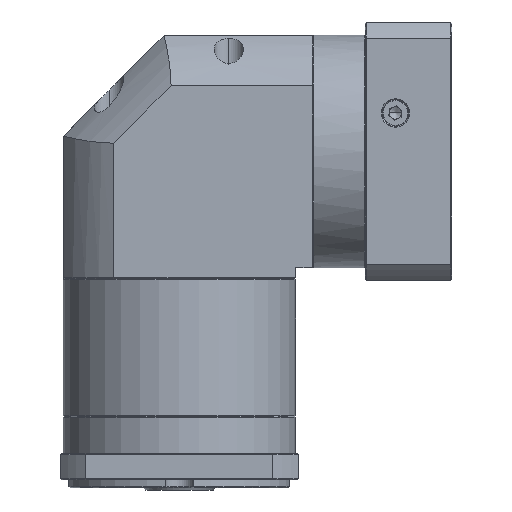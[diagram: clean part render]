
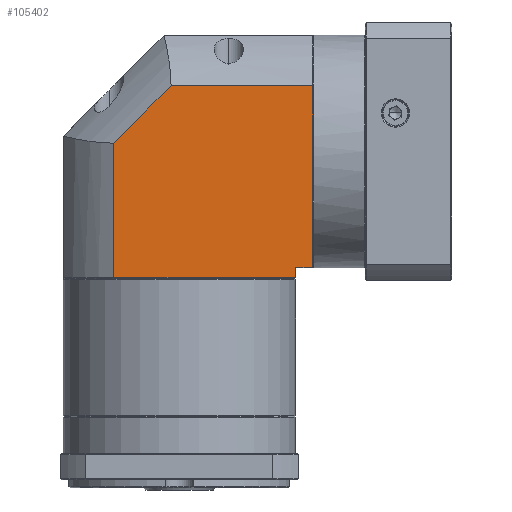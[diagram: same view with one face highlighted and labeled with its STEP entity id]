
A CAD part, front view. The second image highlights one B-rep face of the part: STEP entity #105402.
In plain terms, the highlighted planar face has unit normal (0, -1, 0).
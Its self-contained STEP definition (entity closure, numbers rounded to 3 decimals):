
#30 = CARTESIAN_POINT ( 'NONE',  ( 99.293, -14.816, -75.322 ) ) ;
#2663 = VECTOR ( 'NONE', #28652, 1000. ) ;
#4521 = LINE ( 'NONE', #36918, #86747 ) ;
#7571 = VERTEX_POINT ( 'NONE', #89852 ) ;
#11342 = LINE ( 'NONE', #95853, #76537 ) ;
#12638 = CARTESIAN_POINT ( 'NONE',  ( -15.707, -14.816, 26.078 ) ) ;
#13810 = ORIENTED_EDGE ( 'NONE', *, *, #127444, .F. ) ;
#15896 = CARTESIAN_POINT ( 'NONE',  ( 9.394, -14.816, -2.261 ) ) ;
#16040 = EDGE_CURVE ( 'NONE', #97332, #23113, #59581, .T. ) ;
#16606 = ORIENTED_EDGE ( 'NONE', *, *, #16040, .F. ) ;
#17927 = ORIENTED_EDGE ( 'NONE', *, *, #24015, .F. ) ;
#23113 = VERTEX_POINT ( 'NONE', #15896 ) ;
#24015 = EDGE_CURVE ( 'NONE', #105495, #110703, #103847, .T. ) ;
#27491 = PLANE ( 'NONE',  #56064 ) ;
#28652 = DIRECTION ( 'NONE',  ( 0., 0., -1. ) ) ;
#31436 = EDGE_CURVE ( 'NONE', #34565, #97332, #4521, .T. ) ;
#34565 = VERTEX_POINT ( 'NONE', #60533 ) ;
#36918 = CARTESIAN_POINT ( 'NONE',  ( -15.707, -14.816, -68.822 ) ) ;
#40651 = ORIENTED_EDGE ( 'NONE', *, *, #125037, .F. ) ;
#41860 = ORIENTED_EDGE ( 'NONE', *, *, #71464, .F. ) ;
#50827 = LINE ( 'NONE', #53344, #86488 ) ;
#53344 = CARTESIAN_POINT ( 'NONE',  ( 107.693, -14.816, -75.322 ) ) ;
#54668 = CARTESIAN_POINT ( 'NONE',  ( -15.707, -14.816, -63.822 ) ) ;
#56064 = AXIS2_PLACEMENT_3D ( 'NONE', #76921, #58709, #57467 ) ;
#57467 = DIRECTION ( 'NONE',  ( 1., 0., 0. ) ) ;
#57960 = FACE_OUTER_BOUND ( 'NONE', #122098, .T. ) ;
#58709 = DIRECTION ( 'NONE',  ( 0., 1., 0. ) ) ;
#59581 = LINE ( 'NONE', #109407, #76632 ) ;
#60533 = CARTESIAN_POINT ( 'NONE',  ( 99.293, -14.816, -68.822 ) ) ;
#62633 = VERTEX_POINT ( 'NONE', #121124 ) ;
#63693 = DIRECTION ( 'NONE',  ( 0., 0., -1. ) ) ;
#66517 = VECTOR ( 'NONE', #114318, 1000. ) ;
#67702 = CARTESIAN_POINT ( 'NONE',  ( 107.693, -14.816, 26.078 ) ) ;
#68225 = ORIENTED_EDGE ( 'NONE', *, *, #99980, .F. ) ;
#69615 = DIRECTION ( 'NONE',  ( 0., 0., 1. ) ) ;
#70760 = DIRECTION ( 'NONE',  ( 1., 0., 0. ) ) ;
#71464 = EDGE_CURVE ( 'NONE', #110703, #62633, #50827, .T. ) ;
#76537 = VECTOR ( 'NONE', #125219, 1000. ) ;
#76632 = VECTOR ( 'NONE', #69615, 1000. ) ;
#76921 = CARTESIAN_POINT ( 'NONE',  ( -15.707, -14.816, -75.322 ) ) ;
#84411 = CARTESIAN_POINT ( 'NONE',  ( 9.394, -14.816, -68.822 ) ) ;
#86488 = VECTOR ( 'NONE', #63693, 1000. ) ;
#86747 = VECTOR ( 'NONE', #106648, 1000. ) ;
#89742 = LINE ( 'NONE', #54668, #66517 ) ;
#89852 = CARTESIAN_POINT ( 'NONE',  ( 99.293, -14.816, -63.822 ) ) ;
#91585 = CARTESIAN_POINT ( 'NONE',  ( 37.732, -14.816, 26.078 ) ) ;
#95428 = ORIENTED_EDGE ( 'NONE', *, *, #31436, .F. ) ;
#95853 = CARTESIAN_POINT ( 'NONE',  ( 9.394, -14.816, -2.261 ) ) ;
#97332 = VERTEX_POINT ( 'NONE', #84411 ) ;
#99980 = EDGE_CURVE ( 'NONE', #62633, #7571, #89742, .T. ) ;
#103847 = LINE ( 'NONE', #12638, #119281 ) ;
#105402 = ADVANCED_FACE ( 'NONE', ( #57960 ), #27491, .F. ) ;
#105495 = VERTEX_POINT ( 'NONE', #91585 ) ;
#106648 = DIRECTION ( 'NONE',  ( -1., 0., 0. ) ) ;
#109407 = CARTESIAN_POINT ( 'NONE',  ( 9.394, -14.816, -75.322 ) ) ;
#110703 = VERTEX_POINT ( 'NONE', #67702 ) ;
#114318 = DIRECTION ( 'NONE',  ( -1., 0., 0. ) ) ;
#119281 = VECTOR ( 'NONE', #70760, 1000. ) ;
#121124 = CARTESIAN_POINT ( 'NONE',  ( 107.693, -14.816, -63.822 ) ) ;
#122098 = EDGE_LOOP ( 'NONE', ( #13810, #68225, #41860, #17927, #40651, #16606, #95428 ) ) ;
#123595 = LINE ( 'NONE', #30, #2663 ) ;
#125037 = EDGE_CURVE ( 'NONE', #23113, #105495, #11342, .T. ) ;
#125219 = DIRECTION ( 'NONE',  ( 0.707, 0., 0.707 ) ) ;
#127444 = EDGE_CURVE ( 'NONE', #7571, #34565, #123595, .T. ) ;
